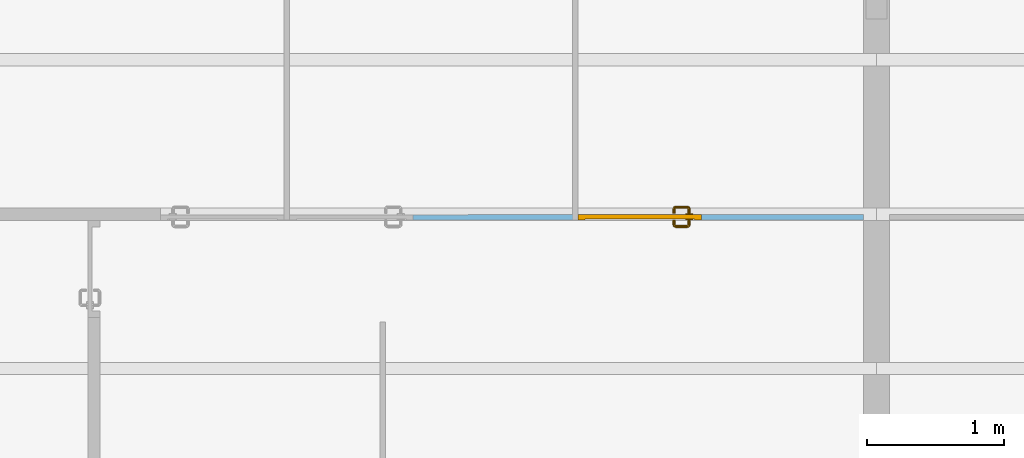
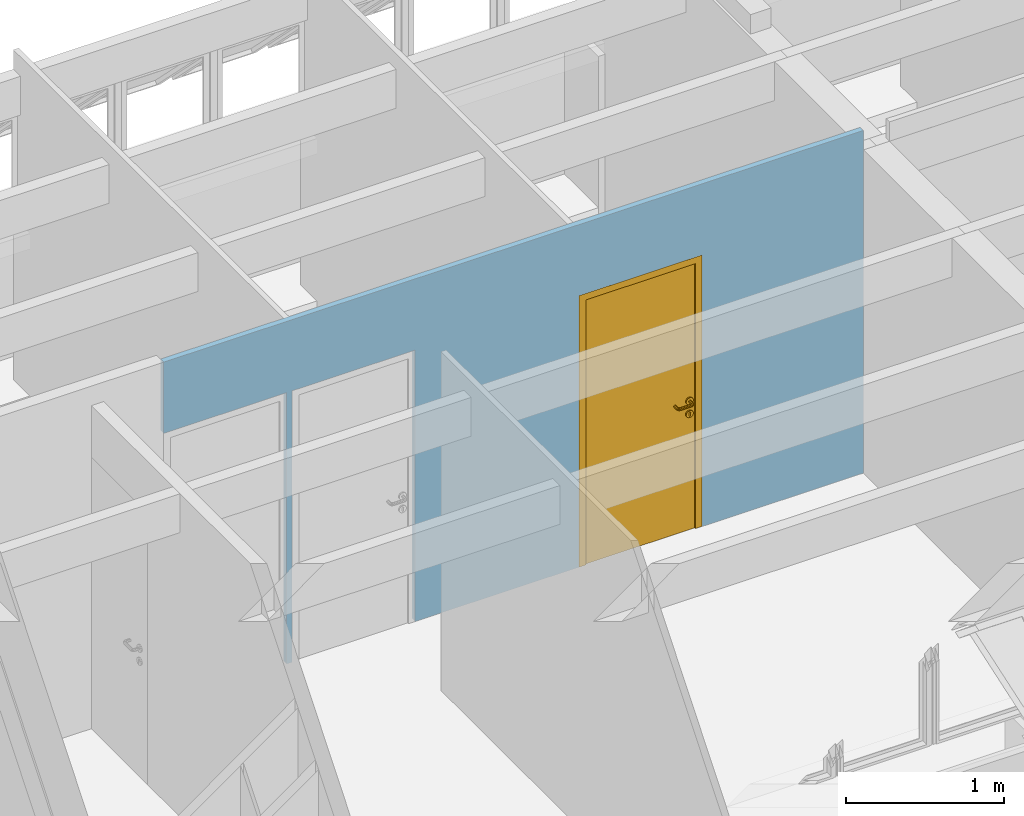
# One storey, part 13 of 22: 1 door, 3 openings, plus 1 element that does not belong to this part.
"""IFC2X3 building model written with IfcOpenShell, lengths in millimetres."""

from ifc_helpers import new_model, si_unit, direction, frame, frame_2d, origin_with_axes, place, context, subcontext, project, spatial, polyline, rectangle, outline, extrude, open_shell, faceted_brep, surface_model, source, transform, mapped, material, layer, layer_set, layer_usage, type_object, type_shapes, element, fill, save


model = new_model("IFC2X3")

# Units and contexts
model_context = context("Model", 3, precision=1e-05, world=origin_with_axes(), true_north=direction((0.0, 1.0)))
body_context = subcontext(model_context, "Body", "Model", "MODEL_VIEW")
ifc_project = project(units=[si_unit("LENGTHUNIT", "METRE", prefix="MILLI"), si_unit("AREAUNIT", "SQUARE_METRE"), si_unit("VOLUMEUNIT", "CUBIC_METRE"), si_unit("PLANEANGLEUNIT", "RADIAN"), si_unit("TIMEUNIT", "SECOND"), si_unit("MASSUNIT", "GRAM")], contexts=[model_context])

# Site, building, storey
site_placement = place(None, origin_with_axes())
site = spatial("IfcSite", under=ifc_project, at=site_placement, Name="Site", CompositionType="ELEMENT")
building_placement = place(site_placement, origin_with_axes())
building = spatial("IfcBuilding", under=site, at=building_placement, Name="Construção", CompositionType="COMPLEX")
storey_placement = place(building_placement, frame((0.0, 0.0, 2650.0), z_axis=(0.0, 0.0, 1.0), x_axis=(1.0, 0.0, 0.0)))
storey = spatial("IfcBuildingStorey", under=building, at=storey_placement, Name="Segundo Pavimento", CompositionType="COMPLEX", Elevation=2650.0)

# Wall, openings, door
ifc_material = material(Name="GENÉRICO - VEDAÇÃO EXTERNA")
ifc_layer = layer(ifc_material, 40.0)
ifc_layer_set = layer_set([ifc_layer], Name="GENÉRICO - VEDAÇÃO EXTERNA 40")
ifc_layer_usage = layer_usage(ifc_layer_set, "AXIS2", "POSITIVE", 0.0)
wall_type = type_object("IfcWallType", Name="GENÉRICO - VEDAÇÃO EXTERNA 40", PredefinedType="STANDARD", material=ifc_layer_set)
wall_placement = place(storey_placement, frame((2170.0, 22394.78043329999, 0.0), z_axis=(0.0, 0.0, 1.0), x_axis=(0.9999999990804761, 4.288412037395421e-05, 0.0)))
wall = element("IfcWallStandardCase", 1, at=wall_placement, inside=storey, type_object=wall_type, material=ifc_layer_usage, Name="APTO7-PAREDE-006", context=body_context, shape_type="SweptSolid", body=[
    extrude(outline(polyline([(-2560.000216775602, -20.00000000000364), (-2559.999359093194, 19.99999999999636), (2559.999787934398, 19.99999999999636), (2559.999787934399, -20.00000000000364), (-2560.000216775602, -20.00000000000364)])), frame((2560.000216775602, 20.0, 0.0), z_axis=(0.0, 0.0, 1.0), x_axis=(1.0, 0.0, 0.0)), (0.0, 0.0, 1.0), 2650.0),
])
opening_1_placement = place(wall_placement, frame((1840.000004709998, 40.0, 0.0), z_axis=(0.0, 0.0, 1.0), x_axis=(-1.0, 0.0, 0.0)))
element("IfcOpeningElement", 2, at=opening_1_placement, cuts=wall, ObjectType="Opening", context=body_context, shape_type="SweptSolid", body=[
    extrude(outline(polyline([(450.0, 1050.0), (450.0, -1050.0), (-450.0, -1050.0), (-450.0, 1050.0), (450.0, 1050.0)])), frame((450.0, 1.364242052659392e-12, 1050.000000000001), z_axis=(0.0, 1.0, 0.0), x_axis=(1.0, 0.0, 0.0)), (0.0, 0.0, 1.0), 120.0),
])
opening_2_placement = place(wall_placement, frame((900.0000047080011, 40.0, 0.0), z_axis=(0.0, 0.0, 1.0), x_axis=(-1.0, 0.0, 0.0)))
element("IfcOpeningElement", 3, at=opening_2_placement, cuts=wall, ObjectType="Opening", context=body_context, shape_type="SweptSolid", body=[
    extrude(outline(polyline([(-450.0, -1050.0), (-450.0, 1050.0), (450.0, 1050.0), (450.0, -1050.0), (-450.0, -1050.0)])), frame((450.0, 1.364242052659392e-12, 1050.000000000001), z_axis=(0.0, 1.0, 0.0), x_axis=(1.0, 0.0, 0.0)), (0.0, 0.0, 1.0), 120.0),
])
opening_3_placement = place(wall_placement, frame((3940.00000471, 40.0, 0.0), z_axis=(0.0, 0.0, 1.0), x_axis=(-1.0, 0.0, 0.0)))
opening_3 = element("IfcOpeningElement", 4, at=opening_3_placement, cuts=wall, ObjectType="Opening", context=body_context, shape_type="SweptSolid", body=[
    extrude(outline(polyline([(450.0, 1050.0), (450.0, -1050.0), (-450.0, -1050.0), (-450.0, 1050.0), (450.0, 1050.0)])), frame((450.0, 1.364242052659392e-12, 1050.000000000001), z_axis=(0.0, 1.0, 0.0), x_axis=(1.0, 0.0, 0.0)), (0.0, 0.0, 1.0), 120.0),
])
door_style = type_object("IfcDoorStyle", Name="Porta 25", ConstructionType="NOTDEFINED", OperationType="SINGLE_SWING_LEFT", ParameterTakesPrecedence=False, Sizeable=False)
shared_shape_1 = source(origin_with_axes(), body_context, "Body", "SolidModel", [
    extrude(outline(polyline([(10.0, 6.666666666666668), (10.0, -23.33333333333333), (-30.0, -23.33333333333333), (-30.0, 16.66666666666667), (20.0, 16.66666666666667), (20.0, 6.666666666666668), (10.0, 6.666666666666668)])), frame((29.9999999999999, 0.0, -23.33333333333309), z_axis=(0.0, 1.0, 0.0), x_axis=(1.0, 0.0, 0.0)), (0.0, 0.0, 1.0), 2050.0),
])
shared_shape_2 = source(origin_with_axes(), body_context, "Body", "SolidModel", [
    extrude(outline(polyline([(-10.0, 6.666666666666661), (-20.0, 6.666666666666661), (-20.0, 16.66666666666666), (30.0, 16.66666666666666), (30.0, -23.33333333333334), (-10.0, -23.33333333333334), (-10.0, 6.666666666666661)])), frame((869.9999999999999, 0.0, -23.3333333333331), z_axis=(0.0, 1.0, 0.0), x_axis=(1.0, 0.0, 0.0)), (0.0, 0.0, 1.0), 2050.0),
])
shared_shape_3 = source(origin_with_axes(), body_context, "Body", "SolidModel", [
    faceted_brep([(899.9999999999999, 2050.0, -39.99999999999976), (0.0, 2050.0, -39.99999999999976), (0.0, 2100.0, -39.99999999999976), (899.9999999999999, 2100.0, -39.99999999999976), (859.9999999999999, 2050.0, -29.99999999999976), (859.9999999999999, 2060.0, -29.99999999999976), (39.99999999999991, 2060.0, -29.99999999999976), (39.99999999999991, 2050.0, -29.99999999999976), (39.99999999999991, 2050.0, 0.0), (39.99999999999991, 2060.0, 0.0), (0.0, 2050.0, 0.0), (0.0, 2100.0, 0.0), (899.9999999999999, 2100.0, 0.0), (899.9999999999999, 2050.0, 0.0), (859.9999999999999, 2050.0, 0.0), (859.9999999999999, 2060.0, 0.0)], [[[0, 1, 2, 3]], [[4, 5, 6, 7]], [[8, 7, 6, 9]], [[10, 11, 2, 1]], [[11, 12, 3, 2]], [[12, 13, 0, 3]], [[4, 7, 8, 10, 1, 0, 13, 14]], [[15, 5, 4, 14]], [[9, 6, 5, 15]], [[9, 15, 14, 13, 12, 11, 10, 8]]]),
])
shared_shape_4 = source(origin_with_axes(), body_context, "Body", "SolidModel", [
    extrude(outline(polyline([(0.0, 27.00000000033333), (13.49999999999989, 23.38268590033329), (23.38268590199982, 13.50000000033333), (26.99999999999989, 3.333298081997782e-10), (23.38268590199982, -13.49999999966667), (13.49999999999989, -23.38268590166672), (0.0, -26.99999999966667), (-13.50000000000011, -23.38268590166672), (-23.38268590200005, -13.49999999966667), (-27.0, 3.333298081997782e-10), (-23.38268590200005, 13.50000000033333), (-13.50000000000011, 23.38268590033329), (0.0, 27.00000000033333)])), frame((90.0, 999.9999999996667, -40.0), z_axis=(0.0, 0.0, 1.0), x_axis=(1.0, 0.0, 0.0)), (0.0, 0.0, 1.0), 10.0),
])
shared_shape_5 = source(origin_with_axes(), body_context, "Body", "SolidModel", [
    faceted_brep([(67.48333950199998, 913.0, -39.0), (67.48333950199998, 913.0, -30.0), (64.0, 900.0, -30.0), (64.0, 900.0, -39.0), (67.48333950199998, 887.0, -39.0), (67.48333950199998, 887.0, -30.0), (77.0, 877.483339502, -30.0), (77.0, 877.483339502, -39.0), (66.61731409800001, 886.5, -30.0), (66.61731409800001, 886.5, -40.0), (76.5, 876.617314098, -40.0), (76.5, 876.617314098, -30.0), (63.0, 900.0, -30.0), (63.0, 900.0, -40.0), (76.5, 923.382685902, -30.0), (76.5, 923.382685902, -40.0), (66.61731409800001, 913.5, -40.0), (66.61731409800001, 913.5, -30.0), (90.0, 874.0, -30.0), (90.0, 874.0, -39.0), (90.0, 926.0, -30.0), (103.0, 922.516660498, -30.0), (112.516660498, 913.0, -30.0), (116.0, 900.0, -30.0), (112.516660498, 887.0, -30.0), (103.0, 877.483339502, -30.0), (77.0, 922.516660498, -30.0), (113.382685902, 913.5, -30.0), (103.5, 923.382685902, -30.0), (90.0, 927.0, -30.0), (90.0, 873.0, -30.0), (103.5, 876.617314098, -30.0), (113.382685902, 886.5, -30.0), (117.0, 900.0, -30.0), (90.0, 873.0, -40.0), (77.0, 922.516660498, -39.0), (103.5, 876.617314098, -40.0), (113.382685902, 886.5, -40.0), (117.0, 900.0, -40.0), (112.516660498, 887.0, -39.0), (116.0, 900.0, -39.0), (103.0, 877.483339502, -39.0), (82.53216922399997, 909.692280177, -40.0), (82.53216922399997, 909.692280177, -39.0), (85.0, 904.4, -39.0), (85.0, 904.4, -40.0), (90.0, 927.0, -40.0), (112.516660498, 913.0, -39.0), (90.0, 926.0, -39.0), (103.0, 922.516660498, -39.0), (85.0, 887.5, -39.0), (85.0, 887.5, -40.0), (86.46446609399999, 883.964466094, -40.0), (86.46446609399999, 883.964466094, -39.0), (90.0, 882.5, -40.0), (90.0, 882.5, -39.0), (93.53553390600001, 883.964466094, -40.0), (93.53553390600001, 883.964466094, -39.0), (95.0, 887.5, -40.0), (95.0, 887.5, -39.0), (84.62481768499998, 915.143815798, -40.0), (84.62481768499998, 915.143815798, -39.0), (83.279754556, 911.639806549, -39.0), (83.279754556, 911.639806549, -40.0), (90.0, 917.425445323, -40.0), (90.0, 917.425445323, -39.0), (103.5, 923.382685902, -40.0), (113.382685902, 913.5, -40.0), (95.37518231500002, 915.143815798, -40.0), (95.37518231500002, 915.143815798, -39.0), (96.720245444, 911.639806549, -39.0), (97.46783077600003, 909.692280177, -39.0), (95.0, 904.4, -39.0), (95.0, 904.4, -40.0), (97.46783077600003, 909.692280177, -40.0), (96.720245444, 911.639806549, -40.0)], [[[0, 1, 2, 3]], [[4, 5, 6, 7]], [[3, 2, 5, 4]], [[8, 9, 10, 11]], [[12, 13, 9, 8]], [[14, 15, 16, 17]], [[7, 6, 18, 19]], [[20, 21, 22, 23, 24, 25, 18, 6, 5, 2, 1, 26], [27, 28, 29, 14, 17, 12, 8, 11, 30, 31, 32, 33]], [[17, 16, 13, 12]], [[11, 10, 34, 30]], [[35, 26, 1, 0]], [[30, 34, 36, 31]], [[31, 36, 37, 32]], [[32, 37, 38, 33]], [[39, 24, 23, 40]], [[41, 25, 24, 39]], [[42, 43, 44, 45]], [[29, 46, 15, 14]], [[40, 23, 22, 47]], [[48, 20, 26, 35]], [[47, 22, 21, 49]], [[19, 18, 25, 41]], [[44, 50, 51, 45]], [[52, 51, 50, 53]], [[54, 52, 53, 55]], [[49, 21, 20, 48]], [[56, 54, 55, 57]], [[58, 56, 57, 59]], [[60, 61, 62, 43, 42, 63]], [[64, 65, 61, 60]], [[28, 66, 46, 29]], [[33, 38, 67, 27]], [[27, 67, 66, 28]], [[68, 69, 65, 64]], [[47, 49, 48, 35, 0, 3, 4, 7, 19, 41, 39, 40], [69, 70, 71, 72, 59, 57, 55, 53, 50, 44, 43, 62, 61, 65]], [[73, 72, 71, 74]], [[73, 58, 59, 72]], [[74, 71, 70, 69, 68, 75]], [[66, 67, 38, 37, 36, 34, 10, 9, 13, 16, 15, 46], [74, 75, 68, 64, 60, 63, 42, 45, 51, 52, 54, 56, 58, 73]]], outer=[[True], [True], [True], [True], [True], [True], [True], [False, True], [True], [True], [True], [True], [True], [True], [True], [True], [True], [True], [True], [True], [True], [True], [True], [True], [True], [True], [True], [True], [True], [True], [True], [True], [True], [True], [True, False], [True], [True], [True], [True, False]]),
])
shared_shape_6 = source(origin_with_axes(), body_context, "Body", "SurfaceModel", [
    surface_model("IfcShellBasedSurfaceModel", [(190.0, 1000.0, -69.0150859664), (190.0, 1000.0, -40.0), (192.928932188, 1007.07106781, -40.0), (192.928932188, 1007.07106781, -69.303560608), (189.438398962, 1000.0, -71.83844504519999), (192.197392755, 1007.07106781, -72.9812576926), (192.928932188, 992.928932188, -69.303560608), (192.928932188, 992.928932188, -40.0), (192.197392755, 992.928932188, -72.9812576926), (200.0, 990.0, -70.0), (200.0, 990.0, -40.0), (200.0, 1010.0, -40.0), (200.0, 1010.0, -70.0), (207.071067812, 992.928932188, -70.696439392), (207.071067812, 992.928932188, -40.0), (210.0, 1000.0, -40.0), (207.071067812, 1007.07106781, -40.0), (205.518993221, 992.928932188, -78.49924527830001), (198.858192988, 990.0, -75.74025148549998), (210.0, 1000.0, -70.9849140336), (208.277987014, 1000.0, -79.6420579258), (207.071067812, 1007.07106781, -70.696439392), (205.518993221, 1007.07106781, -78.49924527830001), (200.704557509, 1007.07106781, -85.70455750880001), (202.816199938, 1000.0, -87.8161999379), (198.858192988, 1010.0, -75.74025148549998), (195.606601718, 1010.0, -80.6066017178), (190.740251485, 1010.0, -83.8581929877), (193.499245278, 1007.07106781, -90.51899322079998), (190.508645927, 1007.07106781, -75.5086459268), (187.981257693, 1007.07106781, -77.19739275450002), (188.397003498, 1000.0, -73.39700349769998), (186.838445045, 1000.0, -74.43839896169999), (190.508645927, 992.928932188, -75.5086459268), (200.704557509, 992.928932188, -85.70455750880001), (195.606601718, 990.0, -80.6066017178), (187.981257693, 992.928932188, -77.19739275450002), (184.303560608, 992.928932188, -77.92893218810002), (184.015085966, 1000.0, -75.0), (190.740251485, 990.0, -83.8581929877), (184.303560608, 1007.07106781, -77.92893218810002), (185.0, 1010.0, -85.0), (105.984914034, 1000.0, -75.0), (105.696439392, 1007.07106781, -77.92893218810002), (105.0, 1010.0, -85.0), (185.696439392, 1007.07106781, -92.07106781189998), (104.303560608, 1007.07106781, -92.07106781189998), (105.696439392, 992.928932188, -77.92893218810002), (185.0, 990.0, -85.0), (102.018742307, 1007.07106781, -77.19739275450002), (99.25974851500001, 1010.0, -83.8581929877), (193.499245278, 992.928932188, -90.51899322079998), (105.0, 990.0, -85.0), (102.018742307, 992.928932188, -77.19739275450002), (103.161554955, 1000.0, -74.43839896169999), (99.491354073, 992.928932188, -75.5086459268), (101.602996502, 1000.0, -73.39700349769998), (99.491354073, 1007.07106781, -75.5086459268), (194.642057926, 1000.0, -93.2779870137), (185.696439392, 992.928932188, -92.07106781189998), (185.984914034, 1000.0, -95.0), (104.015085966, 1000.0, -95.0), (104.303560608, 992.928932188, -92.07106781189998), (99.25974851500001, 990.0, -83.8581929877), (95.357942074, 1000.0, -93.2779870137), (96.50075472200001, 992.928932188, -90.51899322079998), (96.50075472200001, 1007.07106781, -90.51899322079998), (89.29544249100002, 1007.07106781, -85.70455750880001), (87.18380006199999, 1000.0, -87.8161999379), (94.39339828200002, 1010.0, -80.6066017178), (97.80260724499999, 1007.07106781, -72.9812576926), (91.14180701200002, 1010.0, -75.74025148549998), (84.48100677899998, 1007.07106781, -78.49924527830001), (94.39339828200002, 990.0, -80.6066017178), (91.14180701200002, 990.0, -75.74025148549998), (97.80260724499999, 992.928932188, -72.9812576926), (89.29544249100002, 992.928932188, -85.70455750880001), (100.561601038, 1000.0, -71.83844504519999), (97.07106781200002, 992.928932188, -69.303560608), (100.0, 1000.0, -69.0150859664), (97.07106781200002, 1007.07106781, -69.303560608), (97.07106781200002, 992.928932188, -40.0), (100.0, 1000.0, -40.0), (90.0, 1010.0, -70.0), (97.07106781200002, 1007.07106781, -40.0), (90.0, 1010.0, -40.0), (82.92893218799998, 1007.07106781, -70.696439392), (82.92893218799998, 1007.07106781, -40.0), (90.0, 990.0, -40.0), (90.0, 990.0, -70.0), (84.48100677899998, 992.928932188, -78.49924527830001), (81.72201298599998, 1000.0, -79.6420579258), (82.92893218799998, 992.928932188, -70.696439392), (80.0, 1000.0, -70.9849140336), (82.92893218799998, 992.928932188, -40.0), (80.0, 1000.0, -40.0)], [open_shell([[[0, 1, 2, 3]], [[4, 0, 3, 5]], [[6, 7, 1, 0]], [[8, 6, 0, 4]], [[9, 10, 7, 6]], [[3, 2, 11, 12]], [[13, 14, 10, 9]], [[15, 16, 11, 2, 1, 7, 10, 14]], [[17, 13, 9, 18]], [[19, 15, 14, 13]], [[20, 19, 13, 17]], [[21, 16, 15, 19]], [[22, 21, 19, 20]], [[12, 11, 16, 21]], [[23, 22, 20, 24]], [[25, 12, 21, 22]], [[26, 25, 22, 23]], [[5, 3, 12, 25]], [[27, 26, 23, 28]], [[29, 5, 25, 26]], [[30, 29, 26, 27]], [[31, 4, 5, 29]], [[32, 31, 29, 30]], [[33, 8, 4, 31]], [[18, 9, 6, 8]], [[34, 17, 18, 35]], [[36, 33, 31, 32]], [[35, 18, 8, 33]], [[37, 36, 32, 38]], [[39, 35, 33, 36]], [[38, 32, 30, 40]], [[40, 30, 27, 41]], [[42, 38, 40, 43]], [[44, 41, 45, 46]], [[47, 37, 38, 42]], [[48, 39, 36, 37]], [[43, 40, 41, 44]], [[49, 43, 44, 50]], [[51, 34, 35, 39]], [[24, 20, 17, 34]], [[52, 48, 37, 47]], [[53, 47, 42, 54]], [[54, 42, 43, 49]], [[55, 53, 54, 56]], [[56, 54, 49, 57]], [[28, 23, 24, 58]], [[41, 27, 28, 45]], [[59, 51, 39, 48]], [[58, 24, 34, 51]], [[45, 28, 58, 60]], [[60, 58, 51, 59]], [[46, 45, 60, 61]], [[61, 60, 59, 62]], [[63, 52, 47, 53]], [[62, 59, 48, 52]], [[64, 61, 62, 65]], [[65, 62, 52, 63]], [[66, 46, 61, 64]], [[67, 66, 64, 68]], [[50, 44, 46, 66]], [[57, 49, 50, 69]], [[69, 50, 66, 67]], [[70, 57, 69, 71]], [[71, 69, 67, 72]], [[73, 63, 53, 55]], [[74, 73, 55, 75]], [[76, 65, 63, 73]], [[75, 55, 56, 77]], [[77, 56, 57, 70]], [[78, 75, 77, 79]], [[79, 77, 70, 80]], [[81, 78, 79, 82]], [[80, 70, 71, 83]], [[82, 79, 80, 84]], [[84, 80, 83, 85]], [[85, 83, 86, 87]], [[88, 89, 78, 81]], [[89, 74, 75, 78]], [[90, 76, 73, 74]], [[68, 64, 65, 76]], [[72, 67, 68, 91]], [[83, 71, 72, 86]], [[92, 90, 74, 89]], [[91, 68, 76, 90]], [[86, 72, 91, 93]], [[94, 92, 89, 88]], [[93, 91, 90, 92]], [[87, 86, 93, 95]], [[95, 93, 92, 94]]])]),
])
shared_shape_7 = source(origin_with_axes(), body_context, "Body", "SolidModel", [
    extrude(outline(polyline([(0.0, 27.00000000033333), (13.49999999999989, 23.38268590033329), (23.38268590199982, 13.50000000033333), (26.99999999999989, 3.333298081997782e-10), (23.38268590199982, -13.49999999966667), (13.49999999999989, -23.38268590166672), (0.0, -26.99999999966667), (-13.50000000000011, -23.38268590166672), (-23.38268590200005, -13.49999999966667), (-27.0, 3.333298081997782e-10), (-23.38268590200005, 13.50000000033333), (-13.50000000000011, 23.38268590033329), (0.0, 27.00000000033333)])), frame((90.0, 999.9999999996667, 0.0), z_axis=(0.0, 0.0, 1.0), x_axis=(1.0, 0.0, 0.0)), (0.0, 0.0, 1.0), 10.0),
])
shared_shape_8 = source(origin_with_axes(), body_context, "Body", "SolidModel", [
    faceted_brep([(64.0, 900.0, 9.0), (67.48333950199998, 887.0, 9.0), (67.48333950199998, 887.0, 0.0), (64.0, 900.0, 0.0), (63.0, 900.0, 10.0), (63.0, 900.0, 0.0), (66.61731409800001, 886.5, 0.0), (66.61731409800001, 886.5, 10.0), (67.48333950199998, 913.0, 9.0), (67.48333950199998, 913.0, 0.0), (76.5, 876.617314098, 0.0), (76.5, 876.617314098, 10.0), (66.61731409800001, 913.5, 10.0), (66.61731409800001, 913.5, 0.0), (76.5, 923.382685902, 10.0), (76.5, 923.382685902, 0.0), (77.0, 877.483339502, 9.0), (77.0, 877.483339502, 0.0), (77.0, 922.516660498, 9.0), (77.0, 922.516660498, 0.0), (90.0, 873.0, 0.0), (90.0, 873.0, 10.0), (103.5, 876.617314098, 0.0), (103.5, 876.617314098, 10.0), (90.0, 927.0, 0.0), (103.5, 923.382685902, 0.0), (113.382685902, 913.5, 0.0), (117.0, 900.0, 0.0), (113.382685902, 886.5, 0.0), (112.516660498, 913.0, 0.0), (103.0, 922.516660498, 0.0), (90.0, 926.0, 0.0), (90.0, 874.0, 0.0), (103.0, 877.483339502, 0.0), (112.516660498, 887.0, 0.0), (116.0, 900.0, 0.0), (90.0, 882.5, 9.0), (86.46446609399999, 883.964466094, 9.0), (86.46446609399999, 883.964466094, 10.0), (90.0, 882.5, 10.0), (90.0, 927.0, 10.0), (85.0, 887.5, 9.0), (85.0, 887.5, 10.0), (113.382685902, 886.5, 10.0), (117.0, 900.0, 10.0), (113.382685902, 913.5, 10.0), (90.0, 874.0, 9.0), (103.0, 877.483339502, 9.0), (112.516660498, 887.0, 9.0), (103.5, 923.382685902, 10.0), (93.53553390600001, 883.964466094, 9.0), (93.53553390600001, 883.964466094, 10.0), (95.0, 887.5, 9.0), (95.0, 887.5, 10.0), (116.0, 900.0, 9.0), (112.516660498, 913.0, 9.0), (85.0, 904.4, 10.0), (85.0, 904.4, 9.0), (82.53216922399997, 909.692280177, 9.0), (82.53216922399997, 909.692280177, 10.0), (84.62481768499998, 915.143815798, 9.0), (84.62481768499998, 915.143815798, 10.0), (83.279754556, 911.639806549, 10.0), (83.279754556, 911.639806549, 9.0), (90.0, 917.425445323, 9.0), (90.0, 917.425445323, 10.0), (90.0, 926.0, 9.0), (103.0, 922.516660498, 9.0), (95.37518231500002, 915.143815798, 9.0), (95.37518231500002, 915.143815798, 10.0), (96.720245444, 911.639806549, 10.0), (97.46783077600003, 909.692280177, 10.0), (95.0, 904.4, 10.0), (95.0, 904.4, 9.0), (97.46783077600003, 909.692280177, 9.0), (96.720245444, 911.639806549, 9.0)], [[[0, 1, 2, 3]], [[4, 5, 6, 7]], [[8, 0, 3, 9]], [[7, 6, 10, 11]], [[12, 13, 5, 4]], [[14, 15, 13, 12]], [[1, 16, 17, 2]], [[18, 8, 9, 19]], [[11, 10, 20, 21]], [[21, 20, 22, 23]], [[24, 25, 26, 27, 28, 22, 20, 10, 6, 5, 13, 15], [29, 30, 31, 19, 9, 3, 2, 17, 32, 33, 34, 35]], [[36, 37, 38, 39]], [[40, 24, 15, 14]], [[37, 41, 42, 38]], [[43, 28, 27, 44]], [[44, 27, 26, 45]], [[23, 22, 28, 43]], [[16, 46, 32, 17]], [[46, 47, 33, 32]], [[47, 48, 34, 33]], [[49, 25, 24, 40]], [[50, 36, 39, 51]], [[52, 50, 51, 53]], [[45, 26, 25, 49]], [[48, 54, 35, 34]], [[54, 55, 29, 35]], [[56, 42, 41, 57]], [[58, 59, 56, 57]], [[60, 61, 62, 59, 58, 63]], [[64, 65, 61, 60]], [[66, 18, 19, 31]], [[67, 66, 31, 30]], [[55, 67, 30, 29]], [[68, 69, 65, 64]], [[45, 49, 40, 14, 12, 4, 7, 11, 21, 23, 43, 44], [69, 70, 71, 72, 53, 51, 39, 38, 42, 56, 59, 62, 61, 65]], [[73, 72, 71, 74]], [[73, 52, 53, 72]], [[74, 71, 70, 69, 68, 75]], [[66, 67, 55, 54, 48, 47, 46, 16, 1, 0, 8, 18], [74, 75, 68, 64, 60, 63, 58, 57, 41, 37, 36, 50, 52, 73]]]),
])
shared_shape_9 = source(origin_with_axes(), body_context, "Body", "SurfaceModel", [
    surface_model("IfcShellBasedSurfaceModel", [(192.928932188, 1007.07106781, 39.303560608), (200.0, 1010.0, 40.0), (200.0, 1010.0, 10.0), (192.928932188, 1007.07106781, 10.0), (190.0, 1000.0, 39.0150859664), (190.0, 1000.0, 10.0), (192.928932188, 992.928932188, 39.303560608), (192.928932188, 992.928932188, 10.0), (200.0, 990.0, 40.0), (200.0, 990.0, 10.0), (192.197392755, 992.928932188, 42.9812576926), (189.438398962, 1000.0, 41.8384450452), (210.0, 1000.0, 10.0), (207.071067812, 992.928932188, 10.0), (207.071067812, 1007.07106781, 10.0), (192.197392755, 1007.07106781, 42.9812576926), (188.397003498, 1000.0, 43.3970034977), (190.508645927, 1007.07106781, 45.5086459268), (195.606601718, 1010.0, 50.6066017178), (198.858192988, 1010.0, 45.7402514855), (207.071067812, 992.928932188, 40.696439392), (198.858192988, 990.0, 45.7402514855), (190.508645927, 992.928932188, 45.5086459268), (186.838445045, 1000.0, 44.4383989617), (187.981257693, 1007.07106781, 47.1973927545), (207.071067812, 1007.07106781, 40.696439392), (205.518993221, 1007.07106781, 48.4992452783), (210.0, 1000.0, 40.9849140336), (208.277987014, 1000.0, 49.6420579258), (205.518993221, 992.928932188, 48.4992452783), (105.696439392, 1007.07106781, 47.9289321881), (105.0, 1010.0, 55.0), (185.0, 1010.0, 55.0), (184.303560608, 1007.07106781, 47.9289321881), (200.704557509, 992.928932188, 55.7045575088), (195.606601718, 990.0, 50.6066017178), (190.740251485, 1010.0, 53.8581929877), (185.696439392, 1007.07106781, 62.0710678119), (193.499245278, 1007.07106781, 60.5189932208), (200.704557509, 1007.07106781, 55.7045575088), (202.816199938, 1000.0, 57.8161999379), (190.740251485, 990.0, 53.8581929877), (187.981257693, 992.928932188, 47.1973927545), (184.015085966, 1000.0, 45.0), (184.303560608, 992.928932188, 47.9289321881), (105.984914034, 1000.0, 45.0), (105.696439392, 992.928932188, 47.9289321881), (103.161554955, 1000.0, 44.4383989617), (102.018742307, 1007.07106781, 47.1973927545), (185.0, 990.0, 55.0), (194.642057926, 1000.0, 63.2779870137), (193.499245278, 992.928932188, 60.5189932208), (99.491354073, 1007.07106781, 45.5086459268), (94.39339828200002, 1010.0, 50.6066017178), (99.25974851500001, 1010.0, 53.8581929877), (185.984914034, 1000.0, 65.0), (185.696439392, 992.928932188, 62.0710678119), (104.015085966, 1000.0, 65.0), (104.303560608, 992.928932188, 62.0710678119), (104.303560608, 1007.07106781, 62.0710678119), (100.561601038, 1000.0, 41.8384450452), (97.80260724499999, 1007.07106781, 42.9812576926), (101.602996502, 1000.0, 43.3970034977), (105.0, 990.0, 55.0), (102.018742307, 992.928932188, 47.1973927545), (96.50075472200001, 1007.07106781, 60.5189932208), (89.29544249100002, 1007.07106781, 55.7045575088), (95.357942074, 1000.0, 63.2779870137), (91.14180701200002, 1010.0, 45.7402514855), (99.25974851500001, 990.0, 53.8581929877), (99.491354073, 992.928932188, 45.5086459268), (96.50075472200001, 992.928932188, 60.5189932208), (87.18380006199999, 1000.0, 57.8161999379), (89.29544249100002, 992.928932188, 55.7045575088), (94.39339828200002, 990.0, 50.6066017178), (100.0, 1000.0, 10.0), (97.07106781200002, 1007.07106781, 10.0), (97.07106781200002, 1007.07106781, 39.303560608), (100.0, 1000.0, 39.0150859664), (90.0, 1010.0, 10.0), (90.0, 1010.0, 40.0), (84.48100677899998, 1007.07106781, 48.4992452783), (82.92893218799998, 1007.07106781, 10.0), (82.92893218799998, 1007.07106781, 40.696439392), (81.72201298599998, 1000.0, 49.6420579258), (97.80260724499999, 992.928932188, 42.9812576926), (97.07106781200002, 992.928932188, 10.0), (97.07106781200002, 992.928932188, 39.303560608), (91.14180701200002, 990.0, 45.7402514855), (90.0, 990.0, 10.0), (90.0, 990.0, 40.0), (84.48100677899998, 992.928932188, 48.4992452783), (80.0, 1000.0, 40.9849140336), (82.92893218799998, 992.928932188, 40.696439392), (80.0, 1000.0, 10.0), (82.92893218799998, 992.928932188, 10.0)], [open_shell([[[0, 1, 2, 3]], [[4, 0, 3, 5]], [[6, 4, 5, 7]], [[8, 6, 7, 9]], [[10, 11, 4, 6]], [[12, 13, 9, 7, 5, 3, 2, 14]], [[11, 15, 0, 4]], [[16, 17, 15, 11]], [[17, 18, 19, 15]], [[20, 8, 9, 13]], [[21, 10, 6, 8]], [[22, 16, 11, 10]], [[23, 24, 17, 16]], [[15, 19, 1, 0]], [[1, 25, 14, 2]], [[19, 26, 25, 1]], [[25, 27, 12, 14]], [[27, 20, 13, 12]], [[28, 29, 20, 27]], [[30, 31, 32, 33]], [[29, 21, 8, 20]], [[34, 35, 21, 29]], [[33, 32, 36, 24]], [[24, 36, 18, 17]], [[32, 37, 38, 36]], [[18, 39, 26, 19]], [[26, 28, 27, 25]], [[36, 38, 39, 18]], [[39, 40, 28, 26]], [[35, 22, 10, 21]], [[41, 42, 22, 35]], [[42, 23, 16, 22]], [[43, 33, 24, 23]], [[44, 43, 23, 42]], [[45, 30, 33, 43]], [[46, 45, 43, 44]], [[47, 48, 30, 45]], [[49, 44, 42, 41]], [[38, 50, 40, 39]], [[40, 34, 29, 28]], [[51, 41, 35, 34]], [[52, 53, 54, 48]], [[37, 55, 50, 38]], [[50, 51, 34, 40]], [[56, 49, 41, 51]], [[55, 56, 51, 50]], [[57, 58, 56, 55]], [[48, 54, 31, 30]], [[31, 59, 37, 32]], [[60, 61, 52, 62]], [[63, 46, 44, 49]], [[64, 47, 45, 46]], [[62, 52, 48, 47]], [[58, 63, 49, 56]], [[54, 65, 59, 31]], [[59, 57, 55, 37]], [[53, 66, 65, 54]], [[65, 67, 57, 59]], [[61, 68, 53, 52]], [[69, 64, 46, 63]], [[70, 62, 47, 64]], [[67, 71, 58, 57]], [[72, 73, 71, 67]], [[71, 69, 63, 58]], [[73, 74, 69, 71]], [[66, 72, 67, 65]], [[74, 70, 64, 69]], [[75, 76, 77, 78]], [[76, 79, 80, 77]], [[77, 80, 68, 61]], [[68, 81, 66, 53]], [[79, 82, 83, 80]], [[80, 83, 81, 68]], [[81, 84, 72, 66]], [[85, 60, 62, 70]], [[78, 77, 61, 60]], [[86, 75, 78, 87]], [[88, 85, 70, 74]], [[87, 78, 60, 85]], [[89, 86, 87, 90]], [[91, 88, 74, 73]], [[90, 87, 85, 88]], [[83, 92, 84, 81]], [[84, 91, 73, 72]], [[93, 90, 88, 91]], [[82, 94, 92, 83]], [[92, 93, 91, 84]], [[95, 89, 90, 93]], [[94, 95, 93, 92]]])]),
])
shared_shape_10 = source(origin_with_axes(), body_context, "Body", "SolidModel", [
    extrude(rectangle(XDim=2060.0, YDim=820.0, at=frame_2d((0.0, 0.0), x_axis=(0.0, 1.0))), frame((449.9999999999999, 1030.0, -29.99999999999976), z_axis=(0.0, 0.0, 1.0), x_axis=(1.0, 0.0, 0.0)), (0.0, 0.0, 1.0), 30.0),
])
shared_shape_11 = source(origin_with_axes(), body_context, "Body", "MappedRepresentation", [
    mapped(shared_shape_1, transform((0.0, 0.0, 0.0))),
    mapped(shared_shape_2, transform((0.0, 0.0, 0.0))),
    mapped(shared_shape_3, transform((0.0, 0.0, 0.0))),
    mapped(shared_shape_4, transform((0.0, 0.0, 0.0))),
    mapped(shared_shape_5, transform((0.0, 0.0, 0.0))),
    mapped(shared_shape_6, transform((0.0, 0.0, 0.0))),
    mapped(shared_shape_7, transform((0.0, 0.0, 0.0))),
    mapped(shared_shape_8, transform((0.0, 0.0, 0.0))),
    mapped(shared_shape_9, transform((0.0, 0.0, 0.0))),
    mapped(shared_shape_10, transform((0.0, 0.0, 0.0))),
])
type_shapes(door_style, [shared_shape_11])
door_placement = place(opening_3_placement, origin_with_axes())
door = element("IfcDoor", 5, at=door_placement, inside=storey, type_object=door_style, Name="APTO7-PORTA-000", OverallHeight=2100.0, OverallWidth=900.0, context=body_context, shape_type="MappedRepresentation", body=[
    mapped(shared_shape_11, transform((0.0, 0.0, 0.0), x_axis=(1.0, 0.0, 0.0), y_axis=(0.0, 0.0, 1.0), z_axis=(0.0, -1.0, 0.0), scale=1.0)),
])
fill(opening_3, door)

save(model, "model.ifc")
